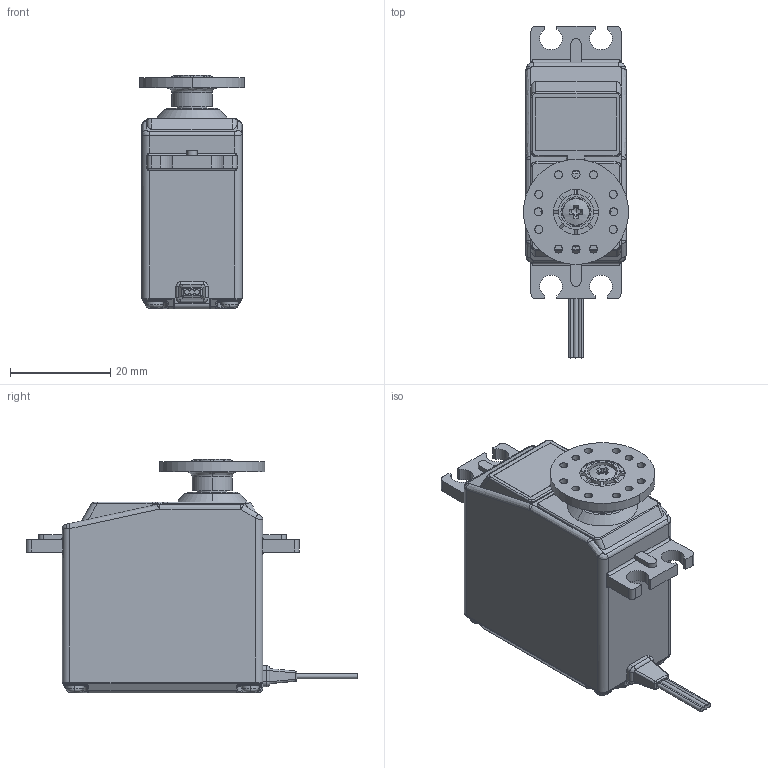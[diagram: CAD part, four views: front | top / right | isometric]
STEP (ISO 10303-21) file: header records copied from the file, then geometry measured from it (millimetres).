
FILE_DESCRIPTION (( 'STEP AP214' ), '1' );
FILE_NAME ('AD20-06H-C06(3D).STEP', '2023-02-02T02:27:26', ( '' ), ( '' ), 'SwSTEP 2.0', 'SolidWorks 2022', '' );
FILE_SCHEMA (( 'AUTOMOTIVE_DESIGN' ));
Length unit declared in the file: millimetre
Products named in the file (4): AD20-06H-C06; HORN; AD20-06H-C06(3D); TAPPING SCREW M2.6x10
Assembly tree (3 placements, depth 2):
  AD20-06H-C06(3D)
    HORN
    TAPPING SCREW M2.6x10
    AD20-06H-C06
Bounding box: 21 x 66.25 x 46.66 mm (x, y, z)
Volume: 31325.1 mm3; surface area: 8083.9 mm2
Topology: 4 solids, 4 shells, 479 faces, 1188 edges, 731 vertices
Faces by surface type: cylinder 193, plane 145, bspline 81, cone 36, torus 24
Entity records: 22865 total; most frequent: CARTESIAN_POINT 7816, ORIENTED_EDGE 2372, DIRECTION 2260, EDGE_CURVE 1186, AXIS2_PLACEMENT_3D 881, VERTEX_POINT 731, EDGE_LOOP 521, VECTOR 498
